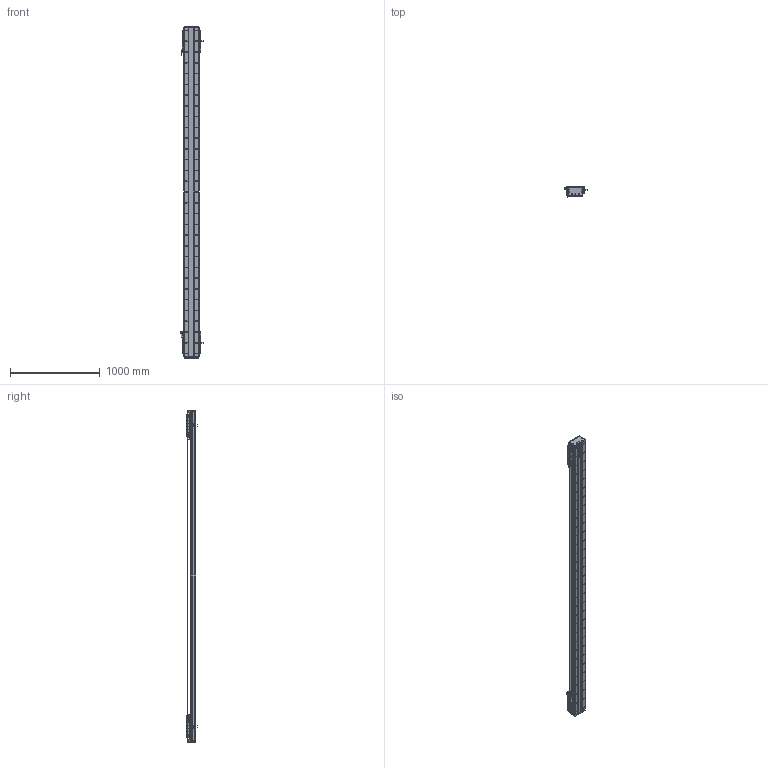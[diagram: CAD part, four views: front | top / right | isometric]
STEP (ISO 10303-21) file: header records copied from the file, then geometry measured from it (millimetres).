
FILE_DESCRIPTION (( 'STEP AP203' ), '1' );
FILE_NAME ('DA-C165-2-C3-T3080-C010-0.2 直线电机.STEP', '2023-06-13T09:11:29', ( '微软用户' ), ( '微软中国' ), 'SwSTEP 2.0', 'SolidWorks 2019', '' );
FILE_SCHEMA (( 'CONFIG_CONTROL_DESIGN' ));
Length unit declared in the file: millimetre
Products named in the file (22): 复件 DA165-GD-DG-H-00 端盖^复件 CU165钢带组件_DA-C165-C3-T-C010-0.2-N 直线电机; 葩璃 PM-T45^DA-C165-C3-T-C010-0.2-N 眻盄萇儂; 复件 XD-U-02L 磁栅尺^DA-C165-C3-T-C010-0.2-N 直线电机_T; 复件 DMA-010-0.2 读数头^DA-C165-C3-T-C010-0.2-N 直线电机; IU-CU165-L 菁釱絳寢; 葩璃 DA95-GT-T-00^IU-CU165-L 菁釱絳寢_T; 复件 DA126-GYP-ZJ-00 中间光电感应片^DA-C165-C3-T-C010-0.2-N 直线电机; 复件 CU165 底座^IU-CU165-L 底座导轨_L3660; 复件 CU165钢带组件^DA-C165-C3-T-C010-0.2-N 直线电机; 复件 DA95-HXJ-00 缓冲橡胶^DA-C165-C3-T-C010-0.2-N 直线电机; 葩璃 CKM01-W075-TRL^DA-C165-C3-T-C010-0.2-N 眻盄萇儂; 复件 DKW-HXJ-JY-00 缓冲橡胶^DA-C165-C3-T-C010-0.2-N 直线电机; 珨极趙賑雄怢啣C3-wf; 复件 66338-1000-006-00 光电感应块^DA-C165-C3-T-C010-0.2-N 直线电机; 葩璃 CKM03-W075-C1C2-TP-3.0^DA-C165-C3-T-C010-0.2-N 眻盄萇儂; 复件 六角薄螺母 M3^DA-C165-C3-T-C010-0.2-N 直线电机_GB_FASTENER_NUT_STNAB M3-C; 复件 DA165-GDYK-00 钢带压块^复件 CU165钢带组件_DA-C165-C3-T-C010-0.2-N 直线电机; 葩璃 PM-Y45^DA-C165-C3-T-C010-0.2-N 眻盄萇儂; DA-C165-2-C3-T3080-C010-0.2 眻盄萇儂; 复件 DA165-GYP-00 光电感应片^DA-C165-C3-T-C010-0.2-N 直线电机; 复件 DA165-GDLK-00 钢带拉块^复件 CU165钢带组件_DA-C165-C3-T-C010-0.2-N 直线电机; 复件 DA165-GD-1860-002-00 钢带盖板^复件 CU165钢带组件_DA-C165-C3-T-C010-0.2-N 直线电机
Assembly tree (45 placements, depth 3):
  DA-C165-2-C3-T3080-C010-0.2 眻盄萇儂
    IU-CU165-L 菁釱絳寢
      复件 CU165 底座^IU-CU165-L 底座导轨_L3660
      葩璃 DA95-GT-T-00^IU-CU165-L 菁釱絳寢_T  x4
    复件 XD-U-02L 磁栅尺^DA-C165-C3-T-C010-0.2-N 直线电机_T
    葩璃 PM-T45^DA-C165-C3-T-C010-0.2-N 眻盄萇儂  x4
    葩璃 CKM01-W075-TRL^DA-C165-C3-T-C010-0.2-N 眻盄萇儂
    复件 CU165钢带组件^DA-C165-C3-T-C010-0.2-N 直线电机
      复件 DA165-GD-DG-H-00 端盖^复件 CU165钢带组件_DA-C165-C3-T-C010-0.2-N 直线电机  x2
      复件 DA165-GDYK-00 钢带压块^复件 CU165钢带组件_DA-C165-C3-T-C010-0.2-N 直线电机  x2
      复件 DA165-GD-1860-002-00 钢带盖板^复件 CU165钢带组件_DA-C165-C3-T-C010-0.2-N 直线电机
      复件 DA165-GDLK-00 钢带拉块^复件 CU165钢带组件_DA-C165-C3-T-C010-0.2-N 直线电机  x2
    复件 DA95-HXJ-00 缓冲橡胶^DA-C165-C3-T-C010-0.2-N 直线电机  x4
    复件 DMA-010-0.2 读数头^DA-C165-C3-T-C010-0.2-N 直线电机  x2
    复件 DA165-GYP-00 光电感应片^DA-C165-C3-T-C010-0.2-N 直线电机  x2
    复件 66338-1000-006-00 光电感应块^DA-C165-C3-T-C010-0.2-N 直线电机
    葩璃 PM-Y45^DA-C165-C3-T-C010-0.2-N 眻盄萇儂
    复件 DA126-GYP-ZJ-00 中间光电感应片^DA-C165-C3-T-C010-0.2-N 直线电机
    葩璃 CKM03-W075-C1C2-TP-3.0^DA-C165-C3-T-C010-0.2-N 眻盄萇儂  x2
    复件 DKW-HXJ-JY-00 缓冲橡胶^DA-C165-C3-T-C010-0.2-N 直线电机  x2
    复件 六角薄螺母 M3^DA-C165-C3-T-C010-0.2-N 直线电机_GB_FASTENER_NUT_STNAB M3-C  x8
    珨极趙賑雄怢啣C3-wf  x2
Bounding box: 247.2 x 111.45 x 3700 mm (x, y, z)
Volume: 22383393.5 mm3; surface area: 6517403.9 mm2
Topology: 121 solids, 221 shells, 7105 faces, 19962 edges, 12526 vertices
Faces by surface type: cylinder 3982, plane 2055, cone 980, torus 80, sphere 8
Entity records: 175946 total; most frequent: CARTESIAN_POINT 49519, ORIENTED_EDGE 26508, DIRECTION 25280, EDGE_CURVE 13254, AXIS2_PLACEMENT_3D 9707, VERTEX_POINT 8680, EDGE_LOOP 6064, LINE 5866
